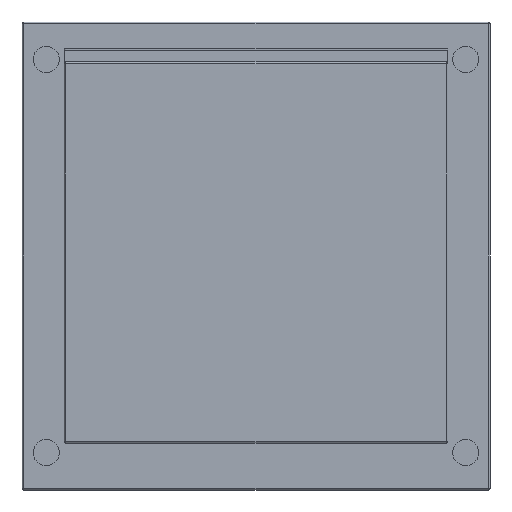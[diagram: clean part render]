
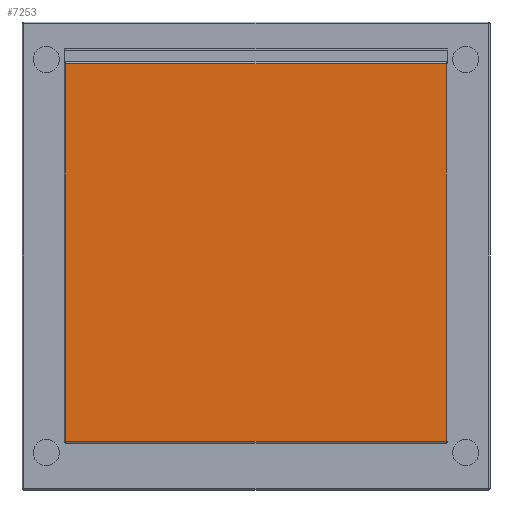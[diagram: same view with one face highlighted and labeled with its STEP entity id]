
A CAD part, front view. The second image highlights one B-rep face of the part: STEP entity #7253.
In plain terms, the highlighted planar face has unit normal (0, -1, 0).
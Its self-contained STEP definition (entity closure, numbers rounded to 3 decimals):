
#367=PLANE('',#7810);
#696=FACE_OUTER_BOUND('',#1096,.T.);
#1096=EDGE_LOOP('',(#5344,#5345,#5346,#5347));
#1837=LINE('',#10306,#2600);
#1839=LINE('',#10315,#2602);
#1841=LINE('',#10321,#2604);
#1846=LINE('',#10331,#2609);
#2600=VECTOR('',#8462,10.);
#2602=VECTOR('',#8474,10.);
#2604=VECTOR('',#8482,10.);
#2609=VECTOR('',#8493,10.);
#3503=VERTEX_POINT('',#10286);
#3507=VERTEX_POINT('',#10295);
#3510=VERTEX_POINT('',#10302);
#3511=VERTEX_POINT('',#10309);
#4223=EDGE_CURVE('',#3503,#3510,#1837,.T.);
#4228=EDGE_CURVE('',#3511,#3507,#1839,.T.);
#4231=EDGE_CURVE('',#3510,#3511,#1841,.T.);
#4237=EDGE_CURVE('',#3507,#3503,#1846,.T.);
#5344=ORIENTED_EDGE('',*,*,#4228,.F.);
#5345=ORIENTED_EDGE('',*,*,#4231,.F.);
#5346=ORIENTED_EDGE('',*,*,#4223,.F.);
#5347=ORIENTED_EDGE('',*,*,#4237,.F.);
#7253=ADVANCED_FACE('',(#696),#367,.T.);
#7810=AXIS2_PLACEMENT_3D('',#10359,#8518,#8519);
#8462=DIRECTION('',(0.,0.,1.));
#8474=DIRECTION('',(0.,0.,-1.));
#8482=DIRECTION('',(1.,0.,0.));
#8493=DIRECTION('',(-1.,0.,0.));
#8518=DIRECTION('center_axis',(0.,-1.,0.));
#8519=DIRECTION('ref_axis',(1.,0.,0.));
#10286=CARTESIAN_POINT('',(-203.,-25.,-198.));
#10295=CARTESIAN_POINT('',(203.,-25.,-198.));
#10302=CARTESIAN_POINT('',(-203.,-25.,205.272));
#10306=CARTESIAN_POINT('',(-203.,-25.,0.));
#10309=CARTESIAN_POINT('',(203.,-25.,205.272));
#10315=CARTESIAN_POINT('',(203.,-25.,0.));
#10321=CARTESIAN_POINT('',(-102.5,-25.,205.272));
#10331=CARTESIAN_POINT('',(-102.5,-25.,-198.));
#10359=CARTESIAN_POINT('Origin',(-205.,-25.,0.));
